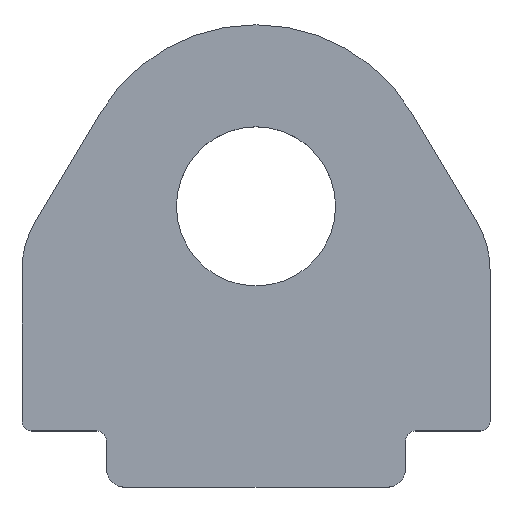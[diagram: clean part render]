
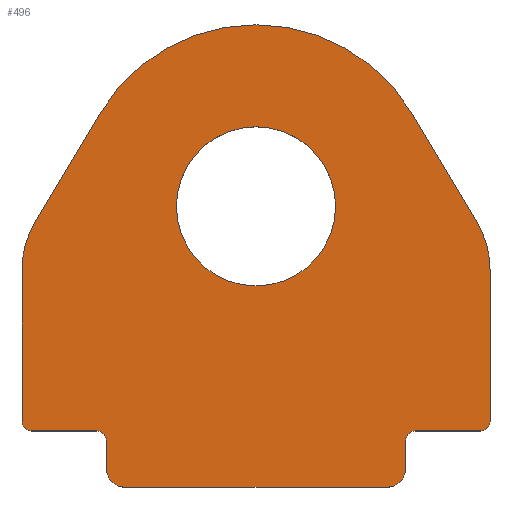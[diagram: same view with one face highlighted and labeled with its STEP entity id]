
A CAD part, top view. The second image highlights one B-rep face of the part: STEP entity #496.
In plain terms, the highlighted planar face has unit normal (0, 0, 1).
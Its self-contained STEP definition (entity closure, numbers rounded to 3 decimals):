
#118=CARTESIAN_POINT('',(0.,12.,1.25));
#119=DIRECTION('',(0.,0.,-1.));
#120=DIRECTION('',(1.,0.,0.));
#121=AXIS2_PLACEMENT_3D('',#118,#119,#120);
#123=CARTESIAN_POINT('',(0.,12.,1.25));
#124=DIRECTION('',(0.,0.,-1.));
#125=DIRECTION('',(-1.,0.,0.));
#126=AXIS2_PLACEMENT_3D('',#123,#124,#125);
#128=CARTESIAN_POINT('',(-7.5,8.618,1.25));
#129=DIRECTION('',(0.,0.,1.));
#130=DIRECTION('',(-0.858,0.513,0.));
#131=AXIS2_PLACEMENT_3D('',#128,#129,#130);
#133=DIRECTION('',(-0.513,-0.858,0.));
#134=VECTOR('',#133,6.752);
#135=CARTESIAN_POINT('',(-8.324,16.98,1.25));
#136=LINE('',#135,#134);
#137=CARTESIAN_POINT('',(0.,12.,1.25));
#138=DIRECTION('',(0.,0.,1.));
#139=DIRECTION('',(0.858,0.513,0.));
#140=AXIS2_PLACEMENT_3D('',#137,#138,#139);
#142=DIRECTION('',(-0.513,0.858,0.));
#143=VECTOR('',#142,6.752);
#144=CARTESIAN_POINT('',(11.791,11.186,1.25));
#145=LINE('',#144,#143);
#146=CARTESIAN_POINT('',(7.5,8.618,1.25));
#147=DIRECTION('',(0.,0.,1.));
#148=DIRECTION('',(1.,0.,0.));
#149=AXIS2_PLACEMENT_3D('',#146,#147,#148);
#151=DIRECTION('',(0.,1.,0.));
#152=VECTOR('',#151,8.118);
#153=CARTESIAN_POINT('',(12.5,0.5,1.25));
#154=LINE('',#153,#152);
#155=CARTESIAN_POINT('',(12.,0.5,1.25));
#156=DIRECTION('',(0.,0.,1.));
#157=DIRECTION('',(0.,-1.,0.));
#158=AXIS2_PLACEMENT_3D('',#155,#156,#157);
#160=DIRECTION('',(1.,0.,0.));
#161=VECTOR('',#160,3.5);
#162=CARTESIAN_POINT('',(8.5,0.,1.25));
#163=LINE('',#162,#161);
#164=DIRECTION('',(0.,1.,0.));
#165=VECTOR('',#164,1.5);
#166=CARTESIAN_POINT('',(8.,-2.,1.25));
#167=LINE('',#166,#165);
#168=CARTESIAN_POINT('',(7.,-2.,1.25));
#169=DIRECTION('',(0.,0.,1.));
#170=DIRECTION('',(0.,-1.,0.));
#171=AXIS2_PLACEMENT_3D('',#168,#169,#170);
#173=DIRECTION('',(1.,0.,0.));
#174=VECTOR('',#173,14.);
#175=CARTESIAN_POINT('',(-7.,-3.,1.25));
#176=LINE('',#175,#174);
#177=CARTESIAN_POINT('',(-7.,-2.,1.25));
#178=DIRECTION('',(0.,0.,1.));
#179=DIRECTION('',(-1.,0.,0.));
#180=AXIS2_PLACEMENT_3D('',#177,#178,#179);
#182=DIRECTION('',(0.,-1.,0.));
#183=VECTOR('',#182,1.5);
#184=CARTESIAN_POINT('',(-8.,-0.5,1.25));
#185=LINE('',#184,#183);
#186=DIRECTION('',(1.,0.,0.));
#187=VECTOR('',#186,3.5);
#188=CARTESIAN_POINT('',(-12.,0.,1.25));
#189=LINE('',#188,#187);
#190=CARTESIAN_POINT('',(-12.,0.5,1.25));
#191=DIRECTION('',(0.,0.,1.));
#192=DIRECTION('',(-1.,0.,0.));
#193=AXIS2_PLACEMENT_3D('',#190,#191,#192);
#195=DIRECTION('',(0.,-1.,0.));
#196=VECTOR('',#195,8.118);
#197=CARTESIAN_POINT('',(-12.5,8.618,1.25));
#198=LINE('',#197,#196);
#236=CARTESIAN_POINT('',(8.5,-0.5,1.25));
#237=DIRECTION('',(0.,0.,-1.));
#238=DIRECTION('',(-1.,0.,0.));
#239=AXIS2_PLACEMENT_3D('',#236,#237,#238);
#270=CARTESIAN_POINT('',(-8.5,-0.5,1.25));
#271=DIRECTION('',(0.,0.,-1.));
#272=DIRECTION('',(0.,1.,0.));
#273=AXIS2_PLACEMENT_3D('',#270,#271,#272);
#299=CARTESIAN_POINT('',(4.25,12.,1.25));
#300=CARTESIAN_POINT('',(-4.25,12.,1.25));
#301=VERTEX_POINT('',#299);
#302=VERTEX_POINT('',#300);
#303=CARTESIAN_POINT('',(8.324,16.98,1.25));
#304=CARTESIAN_POINT('',(-8.324,16.98,1.25));
#305=VERTEX_POINT('',#303);
#306=VERTEX_POINT('',#304);
#308=CARTESIAN_POINT('',(-8.,-0.5,1.25));
#310=VERTEX_POINT('',#308);
#312=CARTESIAN_POINT('',(-8.5,0.,1.25));
#314=VERTEX_POINT('',#312);
#316=CARTESIAN_POINT('',(8.5,0.,1.25));
#318=VERTEX_POINT('',#316);
#320=CARTESIAN_POINT('',(8.,-0.5,1.25));
#322=VERTEX_POINT('',#320);
#327=CARTESIAN_POINT('',(-11.791,11.186,1.25));
#328=VERTEX_POINT('',#327);
#329=CARTESIAN_POINT('',(-12.5,8.618,1.25));
#330=VERTEX_POINT('',#329);
#335=CARTESIAN_POINT('',(12.5,8.618,1.25));
#336=VERTEX_POINT('',#335);
#337=CARTESIAN_POINT('',(11.791,11.186,1.25));
#338=VERTEX_POINT('',#337);
#343=CARTESIAN_POINT('',(-8.,-2.,1.25));
#344=VERTEX_POINT('',#343);
#345=CARTESIAN_POINT('',(-7.,-3.,1.25));
#346=VERTEX_POINT('',#345);
#351=CARTESIAN_POINT('',(7.,-3.,1.25));
#352=VERTEX_POINT('',#351);
#353=CARTESIAN_POINT('',(8.,-2.,1.25));
#354=VERTEX_POINT('',#353);
#359=CARTESIAN_POINT('',(-12.5,0.5,1.25));
#360=VERTEX_POINT('',#359);
#361=CARTESIAN_POINT('',(-12.,0.,1.25));
#362=VERTEX_POINT('',#361);
#367=CARTESIAN_POINT('',(12.,0.,1.25));
#368=VERTEX_POINT('',#367);
#369=CARTESIAN_POINT('',(12.5,0.5,1.25));
#370=VERTEX_POINT('',#369);
#449=CARTESIAN_POINT('',(0.,0.,1.25));
#450=DIRECTION('',(0.,0.,1.));
#451=DIRECTION('',(1.,0.,0.));
#452=AXIS2_PLACEMENT_3D('',#449,#450,#451);
#453=PLANE('',#452);
#455=ORIENTED_EDGE('',*,*,#454,.F.);
#457=ORIENTED_EDGE('',*,*,#456,.F.);
#459=ORIENTED_EDGE('',*,*,#458,.F.);
#461=ORIENTED_EDGE('',*,*,#460,.F.);
#463=ORIENTED_EDGE('',*,*,#462,.F.);
#465=ORIENTED_EDGE('',*,*,#464,.F.);
#467=ORIENTED_EDGE('',*,*,#466,.F.);
#469=ORIENTED_EDGE('',*,*,#468,.F.);
#471=ORIENTED_EDGE('',*,*,#470,.F.);
#473=ORIENTED_EDGE('',*,*,#472,.F.);
#475=ORIENTED_EDGE('',*,*,#474,.F.);
#477=ORIENTED_EDGE('',*,*,#476,.F.);
#479=ORIENTED_EDGE('',*,*,#478,.F.);
#481=ORIENTED_EDGE('',*,*,#480,.F.);
#483=ORIENTED_EDGE('',*,*,#482,.F.);
#485=ORIENTED_EDGE('',*,*,#484,.F.);
#487=ORIENTED_EDGE('',*,*,#486,.F.);
#489=ORIENTED_EDGE('',*,*,#488,.F.);
#490=EDGE_LOOP('',(#455,#457,#459,#461,#463,#465,#467,#469,#471,#473,#475,#477,
#479,#481,#483,#485,#487,#489));
#491=FACE_OUTER_BOUND('',#490,.F.);
#492=ORIENTED_EDGE('',*,*,#429,.F.);
#493=ORIENTED_EDGE('',*,*,#443,.F.);
#494=EDGE_LOOP('',(#492,#493));
#495=FACE_BOUND('',#494,.F.);
#122=CIRCLE('',#121,4.25);
#127=CIRCLE('',#126,4.25);
#132=CIRCLE('',#131,5.);
#141=CIRCLE('',#140,9.7);
#150=CIRCLE('',#149,5.);
#159=CIRCLE('',#158,0.5);
#172=CIRCLE('',#171,1.);
#181=CIRCLE('',#180,1.);
#194=CIRCLE('',#193,0.5);
#240=CIRCLE('',#239,0.5);
#274=CIRCLE('',#273,0.5);
#429=EDGE_CURVE('',#301,#302,#122,.T.);
#443=EDGE_CURVE('',#302,#301,#127,.T.);
#454=EDGE_CURVE('',#328,#330,#132,.T.);
#456=EDGE_CURVE('',#306,#328,#136,.T.);
#458=EDGE_CURVE('',#305,#306,#141,.T.);
#460=EDGE_CURVE('',#338,#305,#145,.T.);
#462=EDGE_CURVE('',#336,#338,#150,.T.);
#464=EDGE_CURVE('',#370,#336,#154,.T.);
#466=EDGE_CURVE('',#368,#370,#159,.T.);
#468=EDGE_CURVE('',#318,#368,#163,.T.);
#470=EDGE_CURVE('',#322,#318,#240,.T.);
#472=EDGE_CURVE('',#354,#322,#167,.T.);
#474=EDGE_CURVE('',#352,#354,#172,.T.);
#476=EDGE_CURVE('',#346,#352,#176,.T.);
#478=EDGE_CURVE('',#344,#346,#181,.T.);
#480=EDGE_CURVE('',#310,#344,#185,.T.);
#482=EDGE_CURVE('',#314,#310,#274,.T.);
#484=EDGE_CURVE('',#362,#314,#189,.T.);
#486=EDGE_CURVE('',#360,#362,#194,.T.);
#488=EDGE_CURVE('',#330,#360,#198,.T.);
#496=ADVANCED_FACE('',(#491,#495),#453,.T.);
